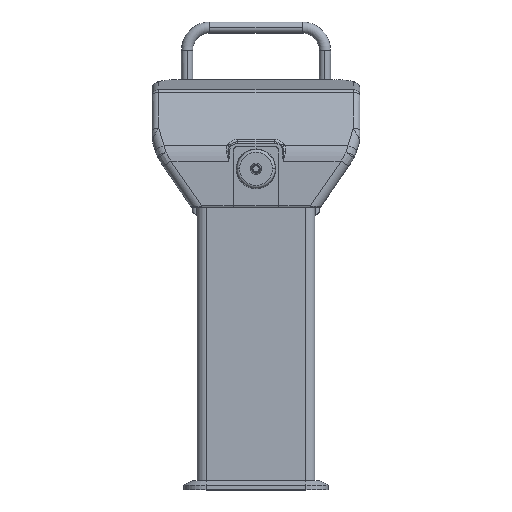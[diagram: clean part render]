
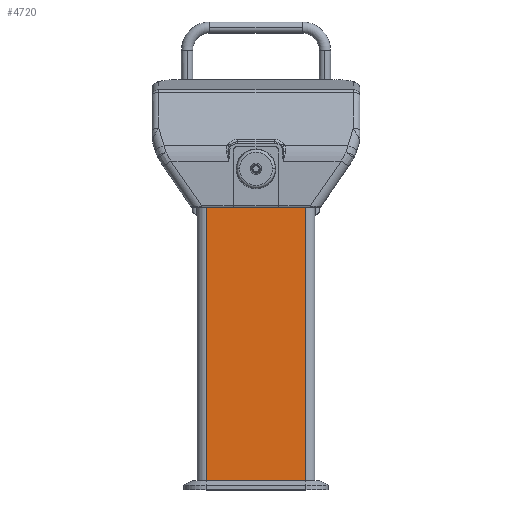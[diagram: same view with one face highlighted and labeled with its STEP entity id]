
A CAD part, top view. The second image highlights one B-rep face of the part: STEP entity #4720.
In plain terms, the highlighted planar face has unit normal (0, 0, 1).
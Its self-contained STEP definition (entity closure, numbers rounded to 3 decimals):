
#259 = CARTESIAN_POINT ( 'NONE',  ( 110., -690., -7.5 ) ) ;
#568 = CARTESIAN_POINT ( 'NONE',  ( 110., -85., -7.5 ) ) ;
#1546 = DIRECTION ( 'NONE',  ( -1., 0., 0. ) ) ;
#3438 = CARTESIAN_POINT ( 'NONE',  ( 110., -690., -7.5 ) ) ;
#4173 = VECTOR ( 'NONE', #12088, 1000. ) ;
#4261 = DIRECTION ( 'NONE',  ( 0., 1., 0. ) ) ;
#4720 = ADVANCED_FACE ( 'NONE', ( #15435 ), #5779, .F. ) ;
#5092 = EDGE_LOOP ( 'NONE', ( #13426, #13243, #7035, #5964 ) ) ;
#5400 = DIRECTION ( 'NONE',  ( 0., 1., 0. ) ) ;
#5444 = DIRECTION ( 'NONE',  ( 0., 0., -1. ) ) ;
#5779 = PLANE ( 'NONE',  #9557 ) ;
#5873 = LINE ( 'NONE', #10517, #14920 ) ;
#5964 = ORIENTED_EDGE ( 'NONE', *, *, #6271, .F. ) ;
#6271 = EDGE_CURVE ( 'NONE', #12084, #6706, #7986, .T. ) ;
#6357 = CARTESIAN_POINT ( 'NONE',  ( -110., -710., -7.5 ) ) ;
#6472 = VECTOR ( 'NONE', #1546, 1000. ) ;
#6706 = VERTEX_POINT ( 'NONE', #10580 ) ;
#7035 = ORIENTED_EDGE ( 'NONE', *, *, #12531, .T. ) ;
#7986 = LINE ( 'NONE', #13839, #4173 ) ;
#8494 = DIRECTION ( 'NONE',  ( -1., 0., 0. ) ) ;
#9159 = VECTOR ( 'NONE', #8494, 1000. ) ;
#9557 = AXIS2_PLACEMENT_3D ( 'NONE', #6357, #5444, #5400 ) ;
#9775 = LINE ( 'NONE', #259, #6472 ) ;
#10517 = CARTESIAN_POINT ( 'NONE',  ( 110., -710., -7.5 ) ) ;
#10580 = CARTESIAN_POINT ( 'NONE',  ( -110., -85., -7.5 ) ) ;
#11796 = EDGE_CURVE ( 'NONE', #13859, #13337, #5873, .T. ) ;
#12024 = LINE ( 'NONE', #14550, #9159 ) ;
#12084 = VERTEX_POINT ( 'NONE', #16142 ) ;
#12088 = DIRECTION ( 'NONE',  ( 0., 1., 0. ) ) ;
#12250 = EDGE_CURVE ( 'NONE', #13859, #12084, #9775, .T. ) ;
#12531 = EDGE_CURVE ( 'NONE', #13337, #6706, #12024, .T. ) ;
#13243 = ORIENTED_EDGE ( 'NONE', *, *, #11796, .T. ) ;
#13337 = VERTEX_POINT ( 'NONE', #568 ) ;
#13426 = ORIENTED_EDGE ( 'NONE', *, *, #12250, .F. ) ;
#13839 = CARTESIAN_POINT ( 'NONE',  ( -110., -710., -7.5 ) ) ;
#13859 = VERTEX_POINT ( 'NONE', #3438 ) ;
#14550 = CARTESIAN_POINT ( 'NONE',  ( -110., -85., -7.5 ) ) ;
#14920 = VECTOR ( 'NONE', #4261, 1000. ) ;
#15435 = FACE_OUTER_BOUND ( 'NONE', #5092, .T. ) ;
#16142 = CARTESIAN_POINT ( 'NONE',  ( -110., -690., -7.5 ) ) ;
